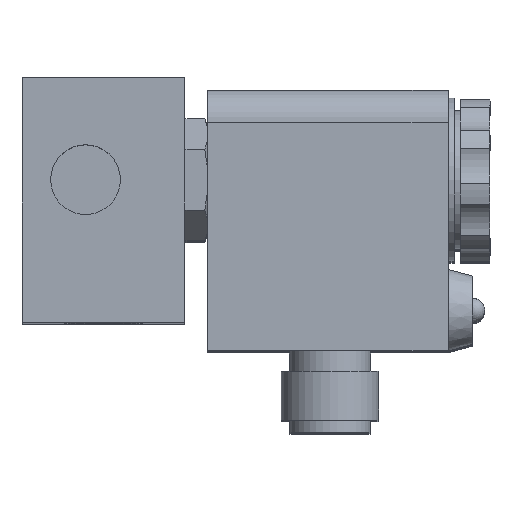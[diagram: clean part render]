
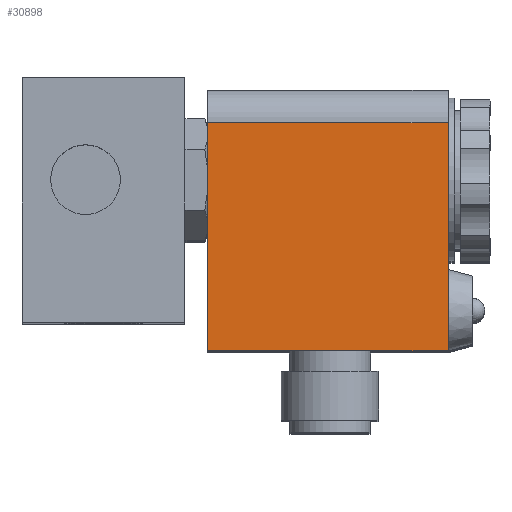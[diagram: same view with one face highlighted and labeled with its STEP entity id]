
A CAD part, top view. The second image highlights one B-rep face of the part: STEP entity #30898.
In plain terms, the highlighted planar face has unit normal (0, 0, 1) as drawn and (0, -1, 0) by its records, which use the part's own axes.
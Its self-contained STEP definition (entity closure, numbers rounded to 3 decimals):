
#420 = ORIENTED_EDGE ( 'NONE', *, *, #1516, .T. ) ;
#421 = ORIENTED_EDGE ( 'NONE', *, *, #1521, .F. ) ;
#422 = ORIENTED_EDGE ( 'NONE', *, *, #1523, .F. ) ;
#423 = ORIENTED_EDGE ( 'NONE', *, *, #1508, .T. ) ;
#1508 = EDGE_CURVE ( 'NONE', #23607, #31665, #5377, .T. ) ;
#1516 = EDGE_CURVE ( 'NONE', #31665, #31702, #5387, .T. ) ;
#1521 = EDGE_CURVE ( 'NONE', #23609, #31702, #5388, .T. ) ;
#1523 = EDGE_CURVE ( 'NONE', #23607, #23609, #5385, .T. ) ;
#5363 = VECTOR ( 'NONE', #7429, 1000. ) ;
#5377 = LINE ( 'NONE', #7428, #5363 ) ;
#5385 = LINE ( 'NONE', #7465, #5398 ) ;
#5387 = LINE ( 'NONE', #7445, #5390 ) ;
#5388 = LINE ( 'NONE', #7460, #5399 ) ;
#5390 = VECTOR ( 'NONE', #7446, 1000. ) ;
#5398 = VECTOR ( 'NONE', #7466, 1000. ) ;
#5399 = VECTOR ( 'NONE', #7461, 1000. ) ;
#6681 = EDGE_LOOP ( 'NONE', ( #420, #421, #422, #423 ) ) ;
#7428 = CARTESIAN_POINT ( 'NONE',  ( 21., -11., 0. ) ) ;
#7429 = DIRECTION ( 'NONE',  ( 0., 0., 1. ) ) ;
#7445 = CARTESIAN_POINT ( 'NONE',  ( 21., -11., 29.5 ) ) ;
#7446 = DIRECTION ( 'NONE',  ( -1., 0., 0. ) ) ;
#7460 = CARTESIAN_POINT ( 'NONE',  ( -7., -11., 0. ) ) ;
#7461 = DIRECTION ( 'NONE',  ( 0., 0., 1. ) ) ;
#7465 = CARTESIAN_POINT ( 'NONE',  ( 21., -11., 0. ) ) ;
#7466 = DIRECTION ( 'NONE',  ( -1., 0., 0. ) ) ;
#12277 = CARTESIAN_POINT ( 'NONE',  ( 21., -11., 0. ) ) ;
#12279 = CARTESIAN_POINT ( 'NONE',  ( -7., -11., 0. ) ) ;
#15874 = CARTESIAN_POINT ( 'NONE',  ( 21., -11., 0. ) ) ;
#15891 = PLANE ( 'NONE',  #16663 ) ;
#15895 = DIRECTION ( 'NONE',  ( 0., -1., 0. ) ) ;
#15896 = DIRECTION ( 'NONE',  ( 0.707, 0., 0.707 ) ) ;
#16663 = AXIS2_PLACEMENT_3D ( 'NONE', #15874, #15895, #15896 ) ;
#17824 = FACE_OUTER_BOUND ( 'NONE', #6681, .T. ) ;
#23607 = VERTEX_POINT ( 'NONE', #12277 ) ;
#23609 = VERTEX_POINT ( 'NONE', #12279 ) ;
#25193 = CARTESIAN_POINT ( 'NONE',  ( 21., -11., 29.5 ) ) ;
#25226 = CARTESIAN_POINT ( 'NONE',  ( -7., -11., 29.5 ) ) ;
#30898 = ADVANCED_FACE ( 'NONE', ( #17824 ), #15891, .T. ) ;
#31665 = VERTEX_POINT ( 'NONE', #25193 ) ;
#31702 = VERTEX_POINT ( 'NONE', #25226 ) ;
